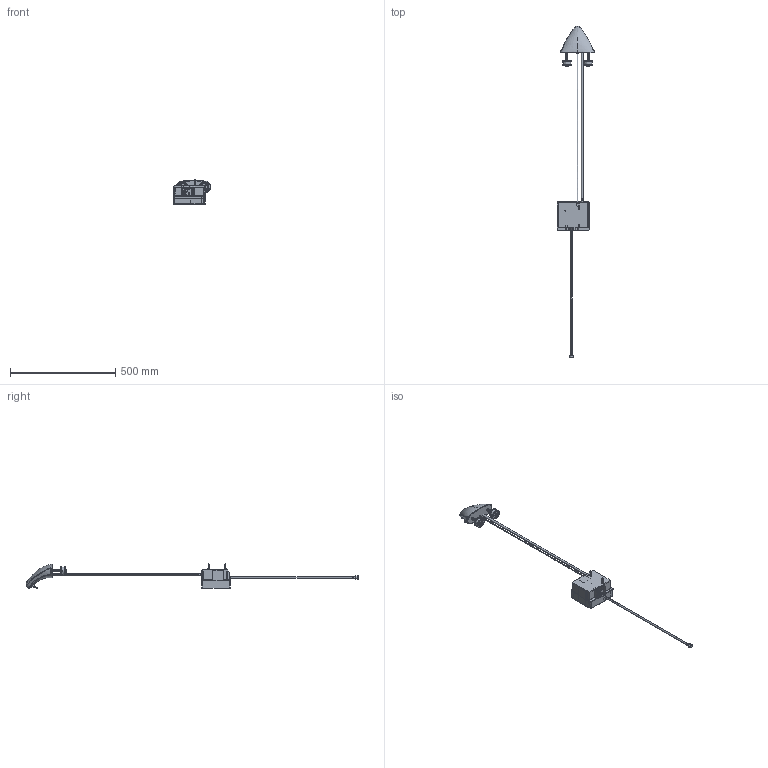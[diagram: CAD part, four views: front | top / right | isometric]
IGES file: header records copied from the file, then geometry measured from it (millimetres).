
Start section:  PTC IGES file: elr-e12a-61abcpt_rev031822.igs
Global section: file name: elr-e12a-61abcpt_rev031822.igs; native system: Creo Parametric by PTC Inc.; preprocessor: 2021184; author: rodjo; organization: Unknown; date: 20220318.152314; units: inch
Bounding box: 179.09 x 1575.24 x 119.73 mm (x, y, z)
Surface area: 392152.1 mm2 (no closed solid volume)
Topology: 0 solids, 0 shells, 1673 faces, 16713 edges, 23272 vertices
Faces by surface type: bspline 871, revolution 797, extrusion 5
